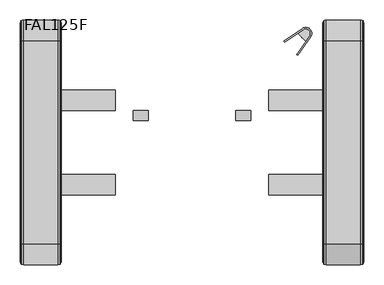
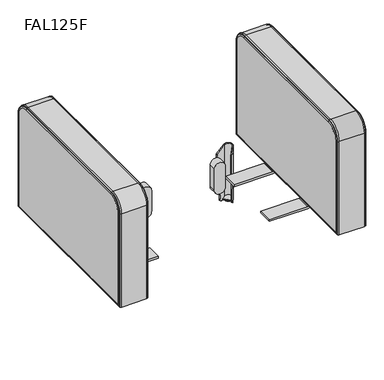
"""IFC4 building model written with IfcOpenShell, lengths in millimetres: furniture geometry, Stance_HC-Flora-Seat_Straight : FAL125F."""

from ifc_helpers import new_model, si_unit, point, frame, frame_2d, origin, origin_with_axes, place, context, project, spatial, polyline, circle_curve, ellipse_curve, trimmed, segment, composite_curve, outline, extrude, source, transform, mapped, element, save
from ifc_brep_helpers import plane_surface, cylinder_surface, revolved_surface, advanced_brep


def fal125f_752cd9b0(model_context):
    return source(origin(), model_context, "Body", "SolidModel", [
        extrude(outline(composite_curve([segment(polyline([(319.1128982, 647.699997), (204.8129042, 647.699997)]), True, "CONTINUOUS"), segment(trimmed(circle_curve(frame_2d((204.8129042, 641.349997)), 6.35), [point((204.8129042, 647.699997))], [point((198.4629042, 641.349997))], True, "CARTESIAN"), True, "CONTINUOUS"), segment(polyline([(198.4629042, 641.349997), (198.4629042, 508.000003), (192.1128921, 508.000003), (192.1128921, 641.349997)]), True, "CONTINUOUS"), segment(trimmed(circle_curve(frame_2d((204.8129042, 641.349997)), 12.7000121), [point((192.1128921, 641.349997))], [point((204.8129042, 654.0500091))], False, "CARTESIAN"), True, "CONTINUOUS"), segment(polyline([(204.8129042, 654.0500091), (319.1128982, 654.0500091), (319.1128982, 647.699997)]), True, "CONTINUOUS")], self_intersect=False)), frame((0.0, -223.8501991, 0.0), z_axis=(0.0, 1.0, 0.0), x_axis=(0.0, 0.0, 1.0)), (0.0, 0.0, 1.0), 50.7999879),
        extrude(outline(composite_curve([segment(polyline([(319.1128982, 647.699997), (204.8129042, 647.699997)]), True, "CONTINUOUS"), segment(trimmed(circle_curve(frame_2d((204.8129042, 641.349997)), 6.35), [point((204.8129042, 647.699997))], [point((198.4629042, 641.349997))], True, "CARTESIAN"), True, "CONTINUOUS"), segment(polyline([(198.4629042, 641.349997), (198.4629042, 508.000003), (192.1128921, 508.000003), (192.1128921, 641.349997)]), True, "CONTINUOUS"), segment(trimmed(circle_curve(frame_2d((204.8129042, 641.349997)), 12.7000121), [point((192.1128921, 641.349997))], [point((204.8129042, 654.0500091))], False, "CARTESIAN"), True, "CONTINUOUS"), segment(polyline([(204.8129042, 654.0500091), (319.1128982, 654.0500091), (319.1128982, 647.699997)]), True, "CONTINUOUS")], self_intersect=False)), frame((0.0, -433.3239864, 0.0), z_axis=(0.0, 1.0, 0.0), x_axis=(0.0, 0.0, 1.0)), (0.0, 0.0, 1.0), 50.7999879),
        advanced_brep(
        [(641.3499485, -555.6250121, 580.256636), (641.3499485, -50.8, 580.256636), (641.3499485, -8.73125, 538.187886), (641.3499485, -8.73125, 207.1941542), (641.3499485, -597.6937621, 207.1941542), (641.3499485, -597.6937621, 538.187886), (742.949997, -597.6937621, 538.187886), (742.949997, -597.6937621, 207.1941542), (742.949997, -8.73125, 207.1941542), (742.949997, -8.73125, 538.187886), (742.949997, -50.8, 580.256636), (742.949997, -555.6250121, 580.256636), (649.834142, -606.4250121, 538.187886), (734.4658035, -606.4250121, 538.187886), (734.4658035, -555.6250121, 588.987886), (649.834142, -555.6250121, 588.987886), (649.834142, -606.4250121, 198.4629042), (734.4658035, -606.4250121, 198.4629042), (649.834142, 0.0, 198.4629042), (734.4658035, 0.0, 198.4629042), (649.834142, 0.0, 538.187886), (734.4658035, 0.0, 538.187886), (649.834142, -50.8, 588.987886), (734.4658035, -50.8, 588.987886), (740.3065441, -603.3867316, 538.187886), (740.3065441, -555.6250121, 585.9496056), (740.3689212, -555.6250121, 587.8832953), (740.3689212, -605.3204213, 538.187886), (740.3065441, -603.3867316, 201.5011847), (740.3689212, -605.3204213, 199.567495), (740.3065441, -3.0382805, 201.5011847), (740.3689212, -1.1045908, 199.567495), (740.3065441, -3.0382805, 538.187886), (740.3689212, -1.1045908, 538.187886), (740.3065441, -50.8, 585.9496056), (740.3689212, -50.8, 587.8832953), (643.9310243, -555.6250121, 587.8832953), (643.9310243, -605.3204213, 538.187886), (643.9934014, -555.6250121, 585.9496056), (643.9934014, -603.3867316, 538.187886), (643.9310243, -605.3204213, 199.567495), (643.9934014, -603.3867316, 201.5011847), (643.9310243, -1.1045908, 199.567495), (643.9934014, -3.0382805, 201.5011847), (643.9310243, -1.1045908, 538.187886), (643.9934014, -3.0382805, 538.187886), (643.9310243, -50.8, 587.8832953), (643.9934014, -50.8, 585.9496056)],
        [
            (0, 1),
            (1, 2, circle_curve(frame((641.3499485, -50.8, 538.187886), z_axis=(-1.0, 0.0, 0.0), x_axis=(0.0, 1.0, 0.0)), 42.06875)),
            (2, 3),
            (3, 4),
            (4, 5),
            (5, 0, circle_curve(frame((641.3499485, -555.6250121, 538.187886), z_axis=(-1.0, 0.0, 0.0), x_axis=(0.0, 0.0, 1.0)), 42.06875)),
            (6, 7),
            (7, 8),
            (8, 9),
            (9, 10, circle_curve(frame((742.949997, -50.8, 538.187886), z_axis=(1.0, 0.0, 0.0), x_axis=(0.0, 1.0, 0.0)), 42.06875)),
            (10, 11),
            (11, 6, circle_curve(frame((742.949997, -555.6250121, 538.187886), z_axis=(1.0, 0.0, 0.0), x_axis=(0.0, 0.0, 1.0)), 42.06875)),
            (12, 13),
            (13, 14, circle_curve(frame((734.4658035, -555.6250121, 538.187886), z_axis=(-1.0, 0.0, 0.0), x_axis=(0.0, 0.0, 1.0)), 50.8)),
            (14, 15),
            (15, 12, circle_curve(frame((649.834142, -555.6250121, 538.187886), z_axis=(1.0, 0.0, 0.0), x_axis=(0.0, 0.0, 1.0)), 50.8)),
            (12, 16),
            (16, 17),
            (17, 13),
            (16, 18),
            (18, 19),
            (19, 17),
            (18, 20),
            (20, 21),
            (21, 19),
            (20, 22, circle_curve(frame((649.834142, -50.8, 538.187886), z_axis=(1.0, 0.0, 0.0), x_axis=(0.0, 1.0, 0.0)), 50.8)),
            (22, 23),
            (23, 21, circle_curve(frame((734.4658035, -50.8, 538.187886), z_axis=(-1.0, 0.0, 0.0), x_axis=(0.0, 1.0, 0.0)), 50.8)),
            (14, 23),
            (22, 15),
            (24, 6, circle_curve(frame((735.4980492, -597.6937621, 538.187886), z_axis=(0.0, 0.0, 1.0), x_axis=(0.0, 1.0, 0.0)), 7.4519478)),
            (11, 25, circle_curve(frame((735.4980492, -555.6250121, 580.256636), z_axis=(0.0, -1.0, 0.0), x_axis=(0.0, 0.0, -1.0)), 7.4519478)),
            (25, 24, circle_curve(frame((740.3065441, -555.6250121, 538.187886), z_axis=(1.0, 0.0, 0.0), x_axis=(0.0, 0.0, 1.0)), 47.7617195)),
            (25, 26, circle_curve(frame((739.9982081, -555.6250121, 586.9274028), z_axis=(0.0, -1.0, 0.0), x_axis=(0.0, 0.0, -1.0)), 1.0252602)),
            (26, 27, circle_curve(frame((740.3689212, -555.6250121, 538.187886), z_axis=(1.0, 0.0, 0.0), x_axis=(0.0, 0.0, 1.0)), 49.6954092)),
            (27, 24, circle_curve(frame((739.9982081, -604.3645289, 538.187886), z_axis=(0.0, 0.0, 1.0), x_axis=(0.0, 1.0, 0.0)), 1.0252602)),
            (13, 27, circle_curve(frame((734.4658035, -590.099093, 538.187886), z_axis=(0.0, 0.0, 1.0), x_axis=(0.0, 1.0, 0.0)), 16.3259191)),
            (26, 14, circle_curve(frame((734.4658035, -555.6250121, 572.661967), z_axis=(0.0, -1.0, 0.0), x_axis=(0.0, 0.0, -1.0)), 16.3259191)),
            (24, 28),
            (28, 7, ellipse_curve(frame((735.4980492, -597.6937621, 207.1941542), z_axis=(0.0, -0.7071067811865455, 0.7071067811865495), x_axis=(0.0, 0.7071067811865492, 0.7071067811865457)), 10.5386456, 7.4519478)),
            (27, 29),
            (29, 28, ellipse_curve(frame((739.9982081, -604.3645289, 200.5233874), z_axis=(0.0, -0.7071067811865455, 0.7071067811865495), x_axis=(0.0, 0.7071067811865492, 0.7071067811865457)), 1.4499369, 1.0252602)),
            (17, 29, ellipse_curve(frame((734.4658035, -590.099093, 214.7888233), z_axis=(0.0, -0.7071067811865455, 0.7071067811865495), x_axis=(0.0, 0.7071067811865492, 0.7071067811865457)), 23.0883362, 16.3259191)),
            (28, 30),
            (30, 8, ellipse_curve(frame((735.4980492, -8.73125, 207.1941542), z_axis=(0.0, -0.7071067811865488, -0.7071067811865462), x_axis=(0.0, -0.7071067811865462, 0.7071067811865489)), 10.5386456, 7.4519478)),
            (29, 31),
            (31, 30, ellipse_curve(frame((739.9982081, -2.0604832, 200.5233874), z_axis=(0.0, -0.7071067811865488, -0.7071067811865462), x_axis=(0.0, -0.7071067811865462, 0.7071067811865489)), 1.4499369, 1.0252602)),
            (19, 31, ellipse_curve(frame((734.4658035, -16.3259191, 214.7888233), z_axis=(0.0, -0.7071067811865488, -0.7071067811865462), x_axis=(0.0, -0.7071067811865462, 0.7071067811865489)), 23.0883362, 16.3259191)),
            (30, 32),
            (32, 9, circle_curve(frame((735.4980492, -8.73125, 538.187886), z_axis=(0.0, 0.0, -1.0), x_axis=(0.0, -1.0, 0.0)), 7.4519478)),
            (31, 33),
            (33, 32, circle_curve(frame((739.9982081, -2.0604832, 538.187886), z_axis=(0.0, 0.0, -1.0), x_axis=(0.0, -1.0, 0.0)), 1.0252602)),
            (21, 33, circle_curve(frame((734.4658035, -16.3259191, 538.187886), z_axis=(0.0, 0.0, -1.0), x_axis=(0.0, -1.0, 0.0)), 16.3259191)),
            (32, 34, circle_curve(frame((740.3065441, -50.8, 538.187886), z_axis=(1.0, 0.0, 0.0), x_axis=(0.0, 1.0, 0.0)), 47.7617195)),
            (34, 10, circle_curve(frame((735.4980492, -50.8, 580.256636), z_axis=(0.0, 1.0, 0.0), x_axis=(0.0, 0.0, -1.0)), 7.4519478)),
            (33, 35, circle_curve(frame((740.3689212, -50.8, 538.187886), z_axis=(1.0, 0.0, 0.0), x_axis=(0.0, 1.0, 0.0)), 49.6954092)),
            (35, 34, circle_curve(frame((739.9982081, -50.8, 586.9274028), z_axis=(0.0, 1.0, 0.0), x_axis=(0.0, 0.0, -1.0)), 1.0252602)),
            (23, 35, circle_curve(frame((734.4658035, -50.8, 572.661967), z_axis=(0.0, 1.0, 0.0), x_axis=(0.0, 0.0, -1.0)), 16.3259191)),
            (34, 25),
            (35, 26),
            (15, 36, circle_curve(frame((649.834142, -555.6250121, 572.661967), z_axis=(0.0, -1.0, 0.0), x_axis=(0.0, 0.0, -1.0)), 16.3259191)),
            (36, 37, circle_curve(frame((643.9310243, -555.6250121, 538.187886), z_axis=(1.0, 0.0, 0.0), x_axis=(0.0, 0.0, 1.0)), 49.6954092)),
            (37, 12, circle_curve(frame((649.834142, -590.099093, 538.187886), z_axis=(0.0, 0.0, 1.0), x_axis=(0.0, 1.0, 0.0)), 16.3259191)),
            (36, 38, circle_curve(frame((644.3017374, -555.6250121, 586.9274028), z_axis=(0.0, -1.0, 0.0), x_axis=(0.0, 0.0, -1.0)), 1.0252602)),
            (38, 39, circle_curve(frame((643.9934014, -555.6250121, 538.187886), z_axis=(1.0, 0.0, 0.0), x_axis=(0.0, 0.0, 1.0)), 47.7617195)),
            (39, 37, circle_curve(frame((644.3017374, -604.3645289, 538.187886), z_axis=(0.0, 0.0, 1.0), x_axis=(0.0, 1.0, 0.0)), 1.0252602)),
            (38, 0, circle_curve(frame((648.8018963, -555.6250121, 580.256636), z_axis=(0.0, -1.0, 0.0), x_axis=(0.0, 0.0, -1.0)), 7.4519478)),
            (5, 39, circle_curve(frame((648.8018963, -597.6937621, 538.187886), z_axis=(0.0, 0.0, 1.0), x_axis=(0.0, 1.0, 0.0)), 7.4519478)),
            (37, 40),
            (40, 16, ellipse_curve(frame((649.834142, -590.099093, 214.7888233), z_axis=(0.0, -0.7071067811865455, 0.7071067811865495), x_axis=(0.0, 0.7071067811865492, 0.7071067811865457)), 23.0883362, 16.3259191)),
            (39, 41),
            (41, 40, ellipse_curve(frame((644.3017374, -604.3645289, 200.5233874), z_axis=(0.0, -0.7071067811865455, 0.7071067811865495), x_axis=(0.0, 0.7071067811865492, 0.7071067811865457)), 1.4499369, 1.0252602)),
            (4, 41, ellipse_curve(frame((648.8018963, -597.6937621, 207.1941542), z_axis=(0.0, -0.7071067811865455, 0.7071067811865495), x_axis=(0.0, 0.7071067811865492, 0.7071067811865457)), 10.5386456, 7.4519478)),
            (40, 42),
            (42, 18, ellipse_curve(frame((649.834142, -16.3259191, 214.7888233), z_axis=(0.0, -0.7071067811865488, -0.7071067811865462), x_axis=(0.0, -0.7071067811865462, 0.7071067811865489)), 23.0883362, 16.3259191)),
            (41, 43),
            (43, 42, ellipse_curve(frame((644.3017374, -2.0604832, 200.5233874), z_axis=(0.0, -0.7071067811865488, -0.7071067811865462), x_axis=(0.0, -0.7071067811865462, 0.7071067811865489)), 1.4499369, 1.0252602)),
            (3, 43, ellipse_curve(frame((648.8018963, -8.73125, 207.1941542), z_axis=(0.0, -0.7071067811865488, -0.7071067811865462), x_axis=(0.0, -0.7071067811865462, 0.7071067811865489)), 10.5386456, 7.4519478)),
            (42, 44),
            (44, 20, circle_curve(frame((649.834142, -16.3259191, 538.187886), z_axis=(0.0, 0.0, -1.0), x_axis=(0.0, -1.0, 0.0)), 16.3259191)),
            (43, 45),
            (45, 44, circle_curve(frame((644.3017374, -2.0604832, 538.187886), z_axis=(0.0, 0.0, -1.0), x_axis=(0.0, -1.0, 0.0)), 1.0252602)),
            (2, 45, circle_curve(frame((648.8018963, -8.73125, 538.187886), z_axis=(0.0, 0.0, -1.0), x_axis=(0.0, -1.0, 0.0)), 7.4519478)),
            (44, 46, circle_curve(frame((643.9310243, -50.8, 538.187886), z_axis=(1.0, 0.0, 0.0), x_axis=(0.0, 1.0, 0.0)), 49.6954092)),
            (46, 22, circle_curve(frame((649.834142, -50.8, 572.661967), z_axis=(0.0, 1.0, 0.0), x_axis=(0.0, 0.0, -1.0)), 16.3259191)),
            (45, 47, circle_curve(frame((643.9934014, -50.8, 538.187886), z_axis=(1.0, 0.0, 0.0), x_axis=(0.0, 1.0, 0.0)), 47.7617195)),
            (47, 46, circle_curve(frame((644.3017374, -50.8, 586.9274028), z_axis=(0.0, 1.0, 0.0), x_axis=(0.0, 0.0, -1.0)), 1.0252602)),
            (1, 47, circle_curve(frame((648.8018963, -50.8, 580.256636), z_axis=(0.0, 1.0, 0.0), x_axis=(0.0, 0.0, -1.0)), 7.4519478)),
            (46, 36),
            (47, 38),
        ],
        [
            plane_surface(frame((641.3499485, -555.6250121, 580.256636), z_axis=(-1.0, 0.0, 0.0), x_axis=(0.0, -1.0, 0.0))),
            plane_surface(frame((742.949997, -555.6250121, 580.256636), z_axis=(1.0, 0.0, 0.0), x_axis=(0.0, 1.0, 0.0))),
            cylinder_surface(frame((635.0, -555.6250121, 538.187886), z_axis=(-1.0, 0.0, 0.0), x_axis=(0.0, 0.0, 1.0)), 50.8),
            plane_surface(frame((734.4658035, -606.4250121, 538.187886), z_axis=(0.0, -1.0, 0.0), x_axis=(0.0, 0.0, -1.0))),
            plane_surface(frame((734.4658035, -606.4250121, 198.4629042), z_axis=(0.0, 0.0, -1.0), x_axis=(0.0, 1.0, 0.0))),
            plane_surface(frame((734.4658035, 0.0, 198.4629042), z_axis=(0.0, 1.0, 0.0), x_axis=(0.0, 0.0, 1.0))),
            cylinder_surface(frame((635.0, -50.8, 538.187886), z_axis=(-1.0, 0.0, 0.0), x_axis=(0.0, 1.0, 0.0)), 50.8),
            plane_surface(frame((734.4658035, -50.8, 588.987886), z_axis=(0.0, 0.0, 1.0), x_axis=(0.0, -1.0, 0.0))),
            revolved_surface(trimmed(ellipse_curve(frame((735.4980492, -555.6250121, 580.256636), z_axis=(0.0, -1.0, 0.0), x_axis=(0.0, 0.0, -1.0)), 7.4519478, 7.4519478), [point((742.949997, -555.6250121, 580.256636))], [point((740.3065441, -555.6250121, 585.9496056))], True, "CARTESIAN"), (635.0, -555.6250121, 538.187886), (-1.0, 0.0, 0.0)),
            revolved_surface(trimmed(ellipse_curve(frame((739.9982081, -555.6250121, 586.9274028), z_axis=(0.0, -1.0, 0.0), x_axis=(0.0, 0.0, -1.0)), 1.0252602, 1.0252602), [point((740.3065441, -555.6250121, 585.9496056))], [point((740.3689212, -555.6250121, 587.8832953))], True, "CARTESIAN"), (635.0, -555.6250121, 538.187886), (-1.0, 0.0, 0.0)),
            revolved_surface(trimmed(ellipse_curve(frame((734.4658035, -555.6250121, 572.661967), z_axis=(0.0, -1.0, 0.0), x_axis=(0.0, 0.0, -1.0)), 16.3259191, 16.3259191), [point((740.3689212, -555.6250121, 587.8832953))], [point((734.4658035, -555.6250121, 588.987886))], True, "CARTESIAN"), (635.0, -555.6250121, 538.187886), (-1.0, 0.0, 0.0)),
            cylinder_surface(frame((735.4980492, -597.6937621, 538.187886), z_axis=(0.0, 0.0, 1.0), x_axis=(0.0, 1.0, 0.0)), 7.4519478),
            cylinder_surface(frame((739.9982081, -604.3645289, 538.187886), z_axis=(0.0, 0.0, 1.0), x_axis=(0.0, 1.0, 0.0)), 1.0252602),
            cylinder_surface(frame((734.4658035, -590.099093, 538.187886), z_axis=(0.0, 0.0, 1.0), x_axis=(0.0, 1.0, 0.0)), 16.3259191),
            cylinder_surface(frame((735.4980492, -606.4250121, 207.1941542), z_axis=(0.0, -1.0, 0.0), x_axis=(0.0, 0.0, 1.0)), 7.4519478),
            cylinder_surface(frame((739.9982081, -606.4250121, 200.5233874), z_axis=(0.0, -1.0, 0.0), x_axis=(0.0, 0.0, 1.0)), 1.0252602),
            cylinder_surface(frame((734.4658035, -606.4250121, 214.7888233), z_axis=(0.0, -1.0, 0.0), x_axis=(0.0, 0.0, 1.0)), 16.3259191),
            cylinder_surface(frame((735.4980492, -8.73125, 198.4629042), z_axis=(0.0, 0.0, -1.0), x_axis=(0.0, -1.0, 0.0)), 7.4519478),
            cylinder_surface(frame((739.9982081, -2.0604832, 198.4629042), z_axis=(0.0, 0.0, -1.0), x_axis=(0.0, -1.0, 0.0)), 1.0252602),
            cylinder_surface(frame((734.4658035, -16.3259191, 198.4629042), z_axis=(0.0, 0.0, -1.0), x_axis=(0.0, -1.0, 0.0)), 16.3259191),
            revolved_surface(trimmed(ellipse_curve(frame((735.4980492, -8.73125, 538.187886), z_axis=(0.0, 0.0, 1.0), x_axis=(0.0, -1.0, 0.0)), 7.4519478, 7.4519478), [point((742.949997, -8.73125, 538.187886))], [point((740.3065441, -3.0382805, 538.187886))], True, "CARTESIAN"), (635.0, -50.8, 538.187886), (-1.0, 0.0, 0.0)),
            revolved_surface(trimmed(ellipse_curve(frame((739.9982081, -2.0604832, 538.187886), z_axis=(0.0, 0.0, 1.0), x_axis=(0.0, -1.0, 0.0)), 1.0252602, 1.0252602), [point((740.3065441, -3.0382805, 538.187886))], [point((740.3689212, -1.1045908, 538.187886))], True, "CARTESIAN"), (635.0, -50.8, 538.187886), (-1.0, 0.0, 0.0)),
            revolved_surface(trimmed(ellipse_curve(frame((734.4658035, -16.3259191, 538.187886), z_axis=(0.0, 0.0, 1.0), x_axis=(0.0, -1.0, 0.0)), 16.3259191, 16.3259191), [point((740.3689212, -1.1045908, 538.187886))], [point((734.4658035, 0.0, 538.187886))], True, "CARTESIAN"), (635.0, -50.8, 538.187886), (-1.0, 0.0, 0.0)),
            cylinder_surface(frame((735.4980492, -50.8, 580.256636), z_axis=(0.0, 1.0, 0.0), x_axis=(0.0, 0.0, -1.0)), 7.4519478),
            cylinder_surface(frame((739.9982081, -50.8, 586.9274028), z_axis=(0.0, 1.0, 0.0), x_axis=(0.0, 0.0, -1.0)), 1.0252602),
            cylinder_surface(frame((734.4658035, -50.8, 572.661967), z_axis=(0.0, 1.0, 0.0), x_axis=(0.0, 0.0, -1.0)), 16.3259191),
            revolved_surface(trimmed(ellipse_curve(frame((649.834142, -555.6250121, 572.661967), z_axis=(0.0, -1.0, 0.0), x_axis=(0.0, 0.0, -1.0)), 16.3259191, 16.3259191), [point((649.834142, -555.6250121, 588.987886))], [point((643.9310243, -555.6250121, 587.8832953))], True, "CARTESIAN"), (635.0, -555.6250121, 538.187886), (-1.0, 0.0, 0.0)),
            revolved_surface(trimmed(ellipse_curve(frame((644.3017374, -555.6250121, 586.9274028), z_axis=(0.0, -1.0, 0.0), x_axis=(0.0, 0.0, -1.0)), 1.0252602, 1.0252602), [point((643.9310243, -555.6250121, 587.8832953))], [point((643.9934014, -555.6250121, 585.9496056))], True, "CARTESIAN"), (635.0, -555.6250121, 538.187886), (-1.0, 0.0, 0.0)),
            revolved_surface(trimmed(ellipse_curve(frame((648.8018963, -555.6250121, 580.256636), z_axis=(0.0, -1.0, 0.0), x_axis=(0.0, 0.0, -1.0)), 7.4519478, 7.4519478), [point((643.9934014, -555.6250121, 585.9496056))], [point((641.3499485, -555.6250121, 580.256636))], True, "CARTESIAN"), (635.0, -555.6250121, 538.187886), (-1.0, 0.0, 0.0)),
            cylinder_surface(frame((649.834142, -590.099093, 538.187886), z_axis=(0.0, 0.0, 1.0), x_axis=(0.0, 1.0, 0.0)), 16.3259191),
            cylinder_surface(frame((644.3017374, -604.3645289, 538.187886), z_axis=(0.0, 0.0, 1.0), x_axis=(0.0, 1.0, 0.0)), 1.0252602),
            cylinder_surface(frame((648.8018963, -597.6937621, 538.187886), z_axis=(0.0, 0.0, 1.0), x_axis=(0.0, 1.0, 0.0)), 7.4519478),
            cylinder_surface(frame((649.834142, -606.4250121, 214.7888233), z_axis=(0.0, -1.0, 0.0), x_axis=(0.0, 0.0, 1.0)), 16.3259191),
            cylinder_surface(frame((644.3017374, -606.4250121, 200.5233874), z_axis=(0.0, -1.0, 0.0), x_axis=(0.0, 0.0, 1.0)), 1.0252602),
            cylinder_surface(frame((648.8018963, -606.4250121, 207.1941542), z_axis=(0.0, -1.0, 0.0), x_axis=(0.0, 0.0, 1.0)), 7.4519478),
            cylinder_surface(frame((649.834142, -16.3259191, 198.4629042), z_axis=(0.0, 0.0, -1.0), x_axis=(0.0, -1.0, 0.0)), 16.3259191),
            cylinder_surface(frame((644.3017374, -2.0604832, 198.4629042), z_axis=(0.0, 0.0, -1.0), x_axis=(0.0, -1.0, 0.0)), 1.0252602),
            cylinder_surface(frame((648.8018963, -8.73125, 198.4629042), z_axis=(0.0, 0.0, -1.0), x_axis=(0.0, -1.0, 0.0)), 7.4519478),
            revolved_surface(trimmed(ellipse_curve(frame((649.834142, -16.3259191, 538.187886), z_axis=(0.0, 0.0, 1.0), x_axis=(0.0, -1.0, 0.0)), 16.3259191, 16.3259191), [point((649.834142, 0.0, 538.187886))], [point((643.9310243, -1.1045908, 538.187886))], True, "CARTESIAN"), (635.0, -50.8, 538.187886), (-1.0, 0.0, 0.0)),
            revolved_surface(trimmed(ellipse_curve(frame((644.3017374, -2.0604832, 538.187886), z_axis=(0.0, 0.0, 1.0), x_axis=(0.0, -1.0, 0.0)), 1.0252602, 1.0252602), [point((643.9310243, -1.1045908, 538.187886))], [point((643.9934014, -3.0382805, 538.187886))], True, "CARTESIAN"), (635.0, -50.8, 538.187886), (-1.0, 0.0, 0.0)),
            revolved_surface(trimmed(ellipse_curve(frame((648.8018963, -8.73125, 538.187886), z_axis=(0.0, 0.0, 1.0), x_axis=(0.0, -1.0, 0.0)), 7.4519478, 7.4519478), [point((643.9934014, -3.0382805, 538.187886))], [point((641.3499485, -8.73125, 538.187886))], True, "CARTESIAN"), (635.0, -50.8, 538.187886), (-1.0, 0.0, 0.0)),
            cylinder_surface(frame((649.834142, -50.8, 572.661967), z_axis=(0.0, 1.0, 0.0), x_axis=(0.0, 0.0, -1.0)), 16.3259191),
            cylinder_surface(frame((644.3017374, -50.8, 586.9274028), z_axis=(0.0, 1.0, 0.0), x_axis=(0.0, 0.0, -1.0)), 1.0252602),
            cylinder_surface(frame((648.8018963, -50.8, 580.256636), z_axis=(0.0, 1.0, 0.0), x_axis=(0.0, 0.0, -1.0)), 7.4519478),
        ],
        [
            (0, [[1, 2, 3, 4, 5, 6]]),
            (1, [[7, 8, 9, 10, 11, 12]]),
            (2, [[13, 14, 15, 16]]),
            (3, [[17, 18, 19, -13]]),
            (4, [[20, 21, 22, -18]]),
            (5, [[23, 24, 25, -21]]),
            (6, [[26, 27, 28, -24]]),
            (7, [[29, -27, 30, -15]]),
            (8, [[31, -12, 32, 33]]),
            (9, [[34, 35, 36, -33]]),
            (10, [[37, -35, 38, -14]]),
            (11, [[39, 40, -7, -31]]),
            (12, [[41, 42, -39, -36]]),
            (13, [[43, -41, -37, -19]]),
            (14, [[44, 45, -8, -40]]),
            (15, [[46, 47, -44, -42]]),
            (16, [[48, -46, -43, -22]]),
            (17, [[49, 50, -9, -45]]),
            (18, [[51, 52, -49, -47]]),
            (19, [[53, -51, -48, -25]]),
            (20, [[54, 55, -10, -50]]),
            (21, [[56, 57, -54, -52]]),
            (22, [[58, -56, -53, -28]]),
            (23, [[-11, -55, 59, -32]]),
            (24, [[-59, -57, 60, -34]]),
            (25, [[-38, -60, -58, -29]]),
            (26, [[61, 62, 63, -16]]),
            (27, [[64, 65, 66, -62]]),
            (28, [[67, -6, 68, -65]]),
            (29, [[-63, 69, 70, -17]]),
            (30, [[71, 72, -69, -66]]),
            (31, [[-5, 73, -71, -68]]),
            (32, [[-70, 74, 75, -20]]),
            (33, [[76, 77, -74, -72]]),
            (34, [[-4, 78, -76, -73]]),
            (35, [[-75, 79, 80, -23]]),
            (36, [[81, 82, -79, -77]]),
            (37, [[-3, 83, -81, -78]]),
            (38, [[-80, 84, 85, -26]]),
            (39, [[86, 87, -84, -82]]),
            (40, [[-2, 88, -86, -83]]),
            (41, [[-85, 89, -61, -30]]),
            (42, [[-89, -87, 90, -64]]),
            (43, [[-90, -88, -1, -67]]),
        ],
    ),
        extrude(outline(composite_curve([segment(polyline([(319.1128982, -12.699997), (319.1128982, -19.0500091), (204.8129042, -19.0500091)]), True, "CONTINUOUS"), segment(trimmed(circle_curve(frame_2d((204.8129042, -6.349997)), 12.7000121), [point((204.8129042, -19.0500091))], [point((192.1128921, -6.349997))], False, "CARTESIAN"), True, "CONTINUOUS"), segment(polyline([(192.1128921, -6.349997), (192.1128921, 126.999997), (198.4629042, 126.999997), (198.4629042, -6.349997)]), True, "CONTINUOUS"), segment(trimmed(circle_curve(frame_2d((204.8129042, -6.349997)), 6.35), [point((198.4629042, -6.349997))], [point((204.8129042, -12.699997))], True, "CARTESIAN"), True, "CONTINUOUS"), segment(polyline([(204.8129042, -12.699997), (319.1128982, -12.699997)]), True, "CONTINUOUS")], self_intersect=False)), frame((0.0, -223.8501991, 0.0), z_axis=(0.0, 1.0, 0.0), x_axis=(0.0, 0.0, 1.0)), (0.0, 0.0, 1.0), 50.7999879),
        extrude(outline(composite_curve([segment(polyline([(319.1128982, -12.699997), (319.1128982, -19.0500091), (204.8129042, -19.0500091)]), True, "CONTINUOUS"), segment(trimmed(circle_curve(frame_2d((204.8129042, -6.349997)), 12.7000121), [point((204.8129042, -19.0500091))], [point((192.1128921, -6.349997))], False, "CARTESIAN"), True, "CONTINUOUS"), segment(polyline([(192.1128921, -6.349997), (192.1128921, 126.999997), (198.4629042, 126.999997), (198.4629042, -6.349997)]), True, "CONTINUOUS"), segment(trimmed(circle_curve(frame_2d((204.8129042, -6.349997)), 6.35), [point((198.4629042, -6.349997))], [point((204.8129042, -12.699997))], True, "CARTESIAN"), True, "CONTINUOUS"), segment(polyline([(204.8129042, -12.699997), (319.1128982, -12.699997)]), True, "CONTINUOUS")], self_intersect=False)), frame((0.0, -433.3239864, 0.0), z_axis=(0.0, 1.0, 0.0), x_axis=(0.0, 0.0, 1.0)), (0.0, 0.0, 1.0), 50.7999879),
        advanced_brep(
        [(-6.3499485, -555.6250121, 580.256636), (-6.3499485, -597.6937621, 538.187886), (-6.3499485, -597.6937621, 207.1941542), (-6.3499485, -8.73125, 207.1941542), (-6.3499485, -8.73125, 538.187886), (-6.3499485, -50.8, 580.256636), (-107.949997, -597.6937621, 538.187886), (-107.949997, -555.6250121, 580.256636), (-107.949997, -50.8, 580.256636), (-107.949997, -8.73125, 538.187886), (-107.949997, -8.73125, 207.1941542), (-107.949997, -597.6937621, 207.1941542), (-14.834142, -606.4250121, 538.187886), (-14.834142, -555.6250121, 588.987886), (-99.4658035, -555.6250121, 588.987886), (-99.4658035, -606.4250121, 538.187886), (-99.4658035, -606.4250121, 198.4629042), (-14.834142, -606.4250121, 198.4629042), (-99.4658035, 0.0, 198.4629042), (-14.834142, 0.0, 198.4629042), (-99.4658035, 0.0, 538.187886), (-14.834142, 0.0, 538.187886), (-99.4658035, -50.8, 588.987886), (-14.834142, -50.8, 588.987886), (-105.3065441, -603.3867316, 538.187886), (-105.3065441, -555.6250121, 585.9496056), (-105.3689212, -605.3204213, 538.187886), (-105.3689212, -555.6250121, 587.8832953), (-105.3065441, -603.3867316, 201.5011847), (-105.3689212, -605.3204213, 199.567495), (-105.3065441, -3.0382805, 201.5011847), (-105.3689212, -1.1045908, 199.567495), (-105.3065441, -3.0382805, 538.187886), (-105.3689212, -1.1045908, 538.187886), (-105.3065441, -50.8, 585.9496056), (-105.3689212, -50.8, 587.8832953), (-8.9310243, -605.3204213, 538.187886), (-8.9310243, -555.6250121, 587.8832953), (-8.9934014, -603.3867316, 538.187886), (-8.9934014, -555.6250121, 585.9496056), (-8.9310243, -605.3204213, 199.567495), (-8.9934014, -603.3867316, 201.5011847), (-8.9310243, -1.1045908, 199.567495), (-8.9934014, -3.0382805, 201.5011847), (-8.9310243, -1.1045908, 538.187886), (-8.9934014, -3.0382805, 538.187886), (-8.9310243, -50.8, 587.8832953), (-8.9934014, -50.8, 585.9496056)],
        [
            (0, 1, circle_curve(frame((-6.3499485, -555.6250121, 538.187886), z_axis=(1.0, 0.0, 0.0), x_axis=(0.0, 0.0, 1.0)), 42.06875)),
            (1, 2),
            (2, 3),
            (3, 4),
            (4, 5, circle_curve(frame((-6.3499485, -50.8, 538.187886), z_axis=(1.0, 0.0, 0.0), x_axis=(0.0, 1.0, 0.0)), 42.06875)),
            (5, 0),
            (6, 7, circle_curve(frame((-107.949997, -555.6250121, 538.187886), z_axis=(-1.0, 0.0, 0.0), x_axis=(0.0, 0.0, 1.0)), 42.06875)),
            (7, 8),
            (8, 9, circle_curve(frame((-107.949997, -50.8, 538.187886), z_axis=(-1.0, 0.0, 0.0), x_axis=(0.0, 1.0, 0.0)), 42.06875)),
            (9, 10),
            (10, 11),
            (11, 6),
            (12, 13, circle_curve(frame((-14.834142, -555.6250121, 538.187886), z_axis=(-1.0, 0.0, 0.0), x_axis=(0.0, 0.0, 1.0)), 50.8)),
            (13, 14),
            (14, 15, circle_curve(frame((-99.4658035, -555.6250121, 538.187886), z_axis=(1.0, 0.0, 0.0), x_axis=(0.0, 0.0, 1.0)), 50.8)),
            (15, 12),
            (15, 16),
            (16, 17),
            (17, 12),
            (16, 18),
            (18, 19),
            (19, 17),
            (18, 20),
            (20, 21),
            (21, 19),
            (20, 22, circle_curve(frame((-99.4658035, -50.8, 538.187886), z_axis=(1.0, 0.0, 0.0), x_axis=(0.0, 1.0, 0.0)), 50.8)),
            (22, 23),
            (23, 21, circle_curve(frame((-14.834142, -50.8, 538.187886), z_axis=(-1.0, 0.0, 0.0), x_axis=(0.0, 1.0, 0.0)), 50.8)),
            (13, 23),
            (22, 14),
            (24, 25, circle_curve(frame((-105.3065441, -555.6250121, 538.187886), z_axis=(-1.0, 0.0, 0.0), x_axis=(0.0, 0.0, 1.0)), 47.7617195)),
            (25, 7, circle_curve(frame((-100.4980492, -555.6250121, 580.256636), z_axis=(0.0, -1.0, 0.0), x_axis=(0.0, 0.0, -1.0)), 7.4519478)),
            (6, 24, circle_curve(frame((-100.4980492, -597.6937621, 538.187886), z_axis=(0.0, 0.0, 1.0), x_axis=(0.0, 1.0, 0.0)), 7.4519478)),
            (24, 26, circle_curve(frame((-104.9982081, -604.3645289, 538.187886), z_axis=(0.0, 0.0, 1.0), x_axis=(0.0, 1.0, 0.0)), 1.0252602)),
            (26, 27, circle_curve(frame((-105.3689212, -555.6250121, 538.187886), z_axis=(-1.0, 0.0, 0.0), x_axis=(0.0, 0.0, 1.0)), 49.6954092)),
            (27, 25, circle_curve(frame((-104.9982081, -555.6250121, 586.9274028), z_axis=(0.0, -1.0, 0.0), x_axis=(0.0, 0.0, -1.0)), 1.0252602)),
            (14, 27, circle_curve(frame((-99.4658035, -555.6250121, 572.661967), z_axis=(0.0, -1.0, 0.0), x_axis=(0.0, 0.0, -1.0)), 16.3259191)),
            (26, 15, circle_curve(frame((-99.4658035, -590.099093, 538.187886), z_axis=(0.0, 0.0, 1.0), x_axis=(0.0, 1.0, 0.0)), 16.3259191)),
            (11, 28, ellipse_curve(frame((-100.4980492, -597.6937621, 207.1941542), z_axis=(0.0, -0.7071067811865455, 0.7071067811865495), x_axis=(0.0, 0.7071067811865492, 0.7071067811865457)), 10.5386456, 7.4519478)),
            (28, 24),
            (28, 29, ellipse_curve(frame((-104.9982081, -604.3645289, 200.5233874), z_axis=(0.0, -0.7071067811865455, 0.7071067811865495), x_axis=(0.0, 0.7071067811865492, 0.7071067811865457)), 1.4499369, 1.0252602)),
            (29, 26),
            (29, 16, ellipse_curve(frame((-99.4658035, -590.099093, 214.7888233), z_axis=(0.0, -0.7071067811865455, 0.7071067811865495), x_axis=(0.0, 0.7071067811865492, 0.7071067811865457)), 23.0883362, 16.3259191)),
            (10, 30, ellipse_curve(frame((-100.4980492, -8.73125, 207.1941542), z_axis=(0.0, -0.7071067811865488, -0.7071067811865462), x_axis=(0.0, -0.7071067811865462, 0.7071067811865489)), 10.5386456, 7.4519478)),
            (30, 28),
            (30, 31, ellipse_curve(frame((-104.9982081, -2.0604832, 200.5233874), z_axis=(0.0, -0.7071067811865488, -0.7071067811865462), x_axis=(0.0, -0.7071067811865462, 0.7071067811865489)), 1.4499369, 1.0252602)),
            (31, 29),
            (31, 18, ellipse_curve(frame((-99.4658035, -16.3259191, 214.7888233), z_axis=(0.0, -0.7071067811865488, -0.7071067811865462), x_axis=(0.0, -0.7071067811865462, 0.7071067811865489)), 23.0883362, 16.3259191)),
            (9, 32, circle_curve(frame((-100.4980492, -8.73125, 538.187886), z_axis=(0.0, 0.0, -1.0), x_axis=(0.0, -1.0, 0.0)), 7.4519478)),
            (32, 30),
            (32, 33, circle_curve(frame((-104.9982081, -2.0604832, 538.187886), z_axis=(0.0, 0.0, -1.0), x_axis=(0.0, -1.0, 0.0)), 1.0252602)),
            (33, 31),
            (33, 20, circle_curve(frame((-99.4658035, -16.3259191, 538.187886), z_axis=(0.0, 0.0, -1.0), x_axis=(0.0, -1.0, 0.0)), 16.3259191)),
            (8, 34, circle_curve(frame((-100.4980492, -50.8, 580.256636), z_axis=(0.0, 1.0, 0.0), x_axis=(0.0, 0.0, -1.0)), 7.4519478)),
            (34, 32, circle_curve(frame((-105.3065441, -50.8, 538.187886), z_axis=(-1.0, 0.0, 0.0), x_axis=(0.0, 1.0, 0.0)), 47.7617195)),
            (34, 35, circle_curve(frame((-104.9982081, -50.8, 586.9274028), z_axis=(0.0, 1.0, 0.0), x_axis=(0.0, 0.0, -1.0)), 1.0252602)),
            (35, 33, circle_curve(frame((-105.3689212, -50.8, 538.187886), z_axis=(-1.0, 0.0, 0.0), x_axis=(0.0, 1.0, 0.0)), 49.6954092)),
            (35, 22, circle_curve(frame((-99.4658035, -50.8, 572.661967), z_axis=(0.0, 1.0, 0.0), x_axis=(0.0, 0.0, -1.0)), 16.3259191)),
            (25, 34),
            (27, 35),
            (12, 36, circle_curve(frame((-14.834142, -590.099093, 538.187886), z_axis=(0.0, 0.0, 1.0), x_axis=(0.0, 1.0, 0.0)), 16.3259191)),
            (36, 37, circle_curve(frame((-8.9310243, -555.6250121, 538.187886), z_axis=(-1.0, 0.0, 0.0), x_axis=(0.0, 0.0, 1.0)), 49.6954092)),
            (37, 13, circle_curve(frame((-14.834142, -555.6250121, 572.661967), z_axis=(0.0, -1.0, 0.0), x_axis=(0.0, 0.0, -1.0)), 16.3259191)),
            (36, 38, circle_curve(frame((-9.3017374, -604.3645289, 538.187886), z_axis=(0.0, 0.0, 1.0), x_axis=(0.0, 1.0, 0.0)), 1.0252602)),
            (38, 39, circle_curve(frame((-8.9934014, -555.6250121, 538.187886), z_axis=(-1.0, 0.0, 0.0), x_axis=(0.0, 0.0, 1.0)), 47.7617195)),
            (39, 37, circle_curve(frame((-9.3017374, -555.6250121, 586.9274028), z_axis=(0.0, -1.0, 0.0), x_axis=(0.0, 0.0, -1.0)), 1.0252602)),
            (38, 1, circle_curve(frame((-13.8018963, -597.6937621, 538.187886), z_axis=(0.0, 0.0, 1.0), x_axis=(0.0, 1.0, 0.0)), 7.4519478)),
            (0, 39, circle_curve(frame((-13.8018963, -555.6250121, 580.256636), z_axis=(0.0, -1.0, 0.0), x_axis=(0.0, 0.0, -1.0)), 7.4519478)),
            (17, 40, ellipse_curve(frame((-14.834142, -590.099093, 214.7888233), z_axis=(0.0, -0.7071067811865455, 0.7071067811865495), x_axis=(0.0, 0.7071067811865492, 0.7071067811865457)), 23.0883362, 16.3259191)),
            (40, 36),
            (40, 41, ellipse_curve(frame((-9.3017374, -604.3645289, 200.5233874), z_axis=(0.0, -0.7071067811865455, 0.7071067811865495), x_axis=(0.0, 0.7071067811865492, 0.7071067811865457)), 1.4499369, 1.0252602)),
            (41, 38),
            (41, 2, ellipse_curve(frame((-13.8018963, -597.6937621, 207.1941542), z_axis=(0.0, -0.7071067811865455, 0.7071067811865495), x_axis=(0.0, 0.7071067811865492, 0.7071067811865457)), 10.5386456, 7.4519478)),
            (19, 42, ellipse_curve(frame((-14.834142, -16.3259191, 214.7888233), z_axis=(0.0, -0.7071067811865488, -0.7071067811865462), x_axis=(0.0, -0.7071067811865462, 0.7071067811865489)), 23.0883362, 16.3259191)),
            (42, 40),
            (42, 43, ellipse_curve(frame((-9.3017374, -2.0604832, 200.5233874), z_axis=(0.0, -0.7071067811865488, -0.7071067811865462), x_axis=(0.0, -0.7071067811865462, 0.7071067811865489)), 1.4499369, 1.0252602)),
            (43, 41),
            (43, 3, ellipse_curve(frame((-13.8018963, -8.73125, 207.1941542), z_axis=(0.0, -0.7071067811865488, -0.7071067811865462), x_axis=(0.0, -0.7071067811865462, 0.7071067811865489)), 10.5386456, 7.4519478)),
            (21, 44, circle_curve(frame((-14.834142, -16.3259191, 538.187886), z_axis=(0.0, 0.0, -1.0), x_axis=(0.0, -1.0, 0.0)), 16.3259191)),
            (44, 42),
            (44, 45, circle_curve(frame((-9.3017374, -2.0604832, 538.187886), z_axis=(0.0, 0.0, -1.0), x_axis=(0.0, -1.0, 0.0)), 1.0252602)),
            (45, 43),
            (45, 4, circle_curve(frame((-13.8018963, -8.73125, 538.187886), z_axis=(0.0, 0.0, -1.0), x_axis=(0.0, -1.0, 0.0)), 7.4519478)),
            (23, 46, circle_curve(frame((-14.834142, -50.8, 572.661967), z_axis=(0.0, 1.0, 0.0), x_axis=(0.0, 0.0, -1.0)), 16.3259191)),
            (46, 44, circle_curve(frame((-8.9310243, -50.8, 538.187886), z_axis=(-1.0, 0.0, 0.0), x_axis=(0.0, 1.0, 0.0)), 49.6954092)),
            (46, 47, circle_curve(frame((-9.3017374, -50.8, 586.9274028), z_axis=(0.0, 1.0, 0.0), x_axis=(0.0, 0.0, -1.0)), 1.0252602)),
            (47, 45, circle_curve(frame((-8.9934014, -50.8, 538.187886), z_axis=(-1.0, 0.0, 0.0), x_axis=(0.0, 1.0, 0.0)), 47.7617195)),
            (47, 5, circle_curve(frame((-13.8018963, -50.8, 580.256636), z_axis=(0.0, 1.0, 0.0), x_axis=(0.0, 0.0, -1.0)), 7.4519478)),
            (37, 46),
            (39, 47),
        ],
        [
            plane_surface(frame((-6.3499485, -555.6250121, 580.256636), z_axis=(1.0, 0.0, 0.0), x_axis=(0.0, -1.0, 0.0))),
            plane_surface(frame((-107.949997, -555.6250121, 580.256636), z_axis=(-1.0, 0.0, 0.0), x_axis=(0.0, 1.0, 0.0))),
            cylinder_surface(frame((0.0, -555.6250121, 538.187886), z_axis=(1.0, 0.0, 0.0), x_axis=(0.0, 0.0, 1.0)), 50.8),
            plane_surface(frame((-99.4658035, -606.4250121, 538.187886), z_axis=(0.0, -1.0, 0.0), x_axis=(0.0, 0.0, -1.0))),
            plane_surface(frame((-99.4658035, -606.4250121, 198.4629042), z_axis=(0.0, 0.0, -1.0), x_axis=(0.0, 1.0, 0.0))),
            plane_surface(frame((-99.4658035, 0.0, 198.4629042), z_axis=(0.0, 1.0, 0.0), x_axis=(0.0, 0.0, 1.0))),
            cylinder_surface(frame((0.0, -50.8, 538.187886), z_axis=(1.0, 0.0, 0.0), x_axis=(0.0, 1.0, 0.0)), 50.8),
            plane_surface(frame((-99.4658035, -50.8, 588.987886), z_axis=(0.0, 0.0, 1.0), x_axis=(0.0, -1.0, 0.0))),
            revolved_surface(trimmed(ellipse_curve(frame((-100.4980492, -555.6250121, 580.256636), z_axis=(0.0, 1.0, 0.0), x_axis=(0.0, 0.0, -1.0)), 7.4519478, 7.4519478), [point((-107.949997, -555.6250121, 580.256636))], [point((-105.3065441, -555.6250121, 585.9496056))], True, "CARTESIAN"), (0.0, -555.6250121, 538.187886), (1.0, 0.0, 0.0)),
            revolved_surface(trimmed(ellipse_curve(frame((-104.9982081, -555.6250121, 586.9274028), z_axis=(0.0, 1.0, 0.0), x_axis=(0.0, 0.0, -1.0)), 1.0252602, 1.0252602), [point((-105.3065441, -555.6250121, 585.9496056))], [point((-105.3689212, -555.6250121, 587.8832953))], True, "CARTESIAN"), (0.0, -555.6250121, 538.187886), (1.0, 0.0, 0.0)),
            revolved_surface(trimmed(ellipse_curve(frame((-99.4658035, -555.6250121, 572.661967), z_axis=(0.0, 1.0, 0.0), x_axis=(0.0, 0.0, -1.0)), 16.3259191, 16.3259191), [point((-105.3689212, -555.6250121, 587.8832953))], [point((-99.4658035, -555.6250121, 588.987886))], True, "CARTESIAN"), (0.0, -555.6250121, 538.187886), (1.0, 0.0, 0.0)),
            cylinder_surface(frame((-100.4980492, -597.6937621, 538.187886), z_axis=(0.0, 0.0, 1.0), x_axis=(0.0, 1.0, 0.0)), 7.4519478),
            cylinder_surface(frame((-104.9982081, -604.3645289, 538.187886), z_axis=(0.0, 0.0, 1.0), x_axis=(0.0, 1.0, 0.0)), 1.0252602),
            cylinder_surface(frame((-99.4658035, -590.099093, 538.187886), z_axis=(0.0, 0.0, 1.0), x_axis=(0.0, 1.0, 0.0)), 16.3259191),
            cylinder_surface(frame((-100.4980492, -606.4250121, 207.1941542), z_axis=(0.0, -1.0, 0.0), x_axis=(0.0, 0.0, 1.0)), 7.4519478),
            cylinder_surface(frame((-104.9982081, -606.4250121, 200.5233874), z_axis=(0.0, -1.0, 0.0), x_axis=(0.0, 0.0, 1.0)), 1.0252602),
            cylinder_surface(frame((-99.4658035, -606.4250121, 214.7888233), z_axis=(0.0, -1.0, 0.0), x_axis=(0.0, 0.0, 1.0)), 16.3259191),
            cylinder_surface(frame((-100.4980492, -8.73125, 198.4629042), z_axis=(0.0, 0.0, -1.0), x_axis=(0.0, -1.0, 0.0)), 7.4519478),
            cylinder_surface(frame((-104.9982081, -2.0604832, 198.4629042), z_axis=(0.0, 0.0, -1.0), x_axis=(0.0, -1.0, 0.0)), 1.0252602),
            cylinder_surface(frame((-99.4658035, -16.3259191, 198.4629042), z_axis=(0.0, 0.0, -1.0), x_axis=(0.0, -1.0, 0.0)), 16.3259191),
            revolved_surface(trimmed(ellipse_curve(frame((-100.4980492, -8.73125, 538.187886), z_axis=(0.0, 0.0, -1.0), x_axis=(0.0, -1.0, 0.0)), 7.4519478, 7.4519478), [point((-107.949997, -8.73125, 538.187886))], [point((-105.3065441, -3.0382805, 538.187886))], True, "CARTESIAN"), (0.0, -50.8, 538.187886), (1.0, 0.0, 0.0)),
            revolved_surface(trimmed(ellipse_curve(frame((-104.9982081, -2.0604832, 538.187886), z_axis=(0.0, 0.0, -1.0), x_axis=(0.0, -1.0, 0.0)), 1.0252602, 1.0252602), [point((-105.3065441, -3.0382805, 538.187886))], [point((-105.3689212, -1.1045908, 538.187886))], True, "CARTESIAN"), (0.0, -50.8, 538.187886), (1.0, 0.0, 0.0)),
            revolved_surface(trimmed(ellipse_curve(frame((-99.4658035, -16.3259191, 538.187886), z_axis=(0.0, 0.0, -1.0), x_axis=(0.0, -1.0, 0.0)), 16.3259191, 16.3259191), [point((-105.3689212, -1.1045908, 538.187886))], [point((-99.4658035, 0.0, 538.187886))], True, "CARTESIAN"), (0.0, -50.8, 538.187886), (1.0, 0.0, 0.0)),
            cylinder_surface(frame((-100.4980492, -50.8, 580.256636), z_axis=(0.0, 1.0, 0.0), x_axis=(0.0, 0.0, -1.0)), 7.4519478),
            cylinder_surface(frame((-104.9982081, -50.8, 586.9274028), z_axis=(0.0, 1.0, 0.0), x_axis=(0.0, 0.0, -1.0)), 1.0252602),
            cylinder_surface(frame((-99.4658035, -50.8, 572.661967), z_axis=(0.0, 1.0, 0.0), x_axis=(0.0, 0.0, -1.0)), 16.3259191),
            revolved_surface(trimmed(ellipse_curve(frame((-14.834142, -555.6250121, 572.661967), z_axis=(0.0, 1.0, 0.0), x_axis=(0.0, 0.0, -1.0)), 16.3259191, 16.3259191), [point((-14.834142, -555.6250121, 588.987886))], [point((-8.9310243, -555.6250121, 587.8832953))], True, "CARTESIAN"), (0.0, -555.6250121, 538.187886), (1.0, 0.0, 0.0)),
            revolved_surface(trimmed(ellipse_curve(frame((-9.3017374, -555.6250121, 586.9274028), z_axis=(0.0, 1.0, 0.0), x_axis=(0.0, 0.0, -1.0)), 1.0252602, 1.0252602), [point((-8.9310243, -555.6250121, 587.8832953))], [point((-8.9934014, -555.6250121, 585.9496056))], True, "CARTESIAN"), (0.0, -555.6250121, 538.187886), (1.0, 0.0, 0.0)),
            revolved_surface(trimmed(ellipse_curve(frame((-13.8018963, -555.6250121, 580.256636), z_axis=(0.0, 1.0, 0.0), x_axis=(0.0, 0.0, -1.0)), 7.4519478, 7.4519478), [point((-8.9934014, -555.6250121, 585.9496056))], [point((-6.3499485, -555.6250121, 580.256636))], True, "CARTESIAN"), (0.0, -555.6250121, 538.187886), (1.0, 0.0, 0.0)),
            cylinder_surface(frame((-14.834142, -590.099093, 538.187886), z_axis=(0.0, 0.0, 1.0), x_axis=(0.0, 1.0, 0.0)), 16.3259191),
            cylinder_surface(frame((-9.3017374, -604.3645289, 538.187886), z_axis=(0.0, 0.0, 1.0), x_axis=(0.0, 1.0, 0.0)), 1.0252602),
            cylinder_surface(frame((-13.8018963, -597.6937621, 538.187886), z_axis=(0.0, 0.0, 1.0), x_axis=(0.0, 1.0, 0.0)), 7.4519478),
            cylinder_surface(frame((-14.834142, -606.4250121, 214.7888233), z_axis=(0.0, -1.0, 0.0), x_axis=(0.0, 0.0, 1.0)), 16.3259191),
            cylinder_surface(frame((-9.3017374, -606.4250121, 200.5233874), z_axis=(0.0, -1.0, 0.0), x_axis=(0.0, 0.0, 1.0)), 1.0252602),
            cylinder_surface(frame((-13.8018963, -606.4250121, 207.1941542), z_axis=(0.0, -1.0, 0.0), x_axis=(0.0, 0.0, 1.0)), 7.4519478),
            cylinder_surface(frame((-14.834142, -16.3259191, 198.4629042), z_axis=(0.0, 0.0, -1.0), x_axis=(0.0, -1.0, 0.0)), 16.3259191),
            cylinder_surface(frame((-9.3017374, -2.0604832, 198.4629042), z_axis=(0.0, 0.0, -1.0), x_axis=(0.0, -1.0, 0.0)), 1.0252602),
            cylinder_surface(frame((-13.8018963, -8.73125, 198.4629042), z_axis=(0.0, 0.0, -1.0), x_axis=(0.0, -1.0, 0.0)), 7.4519478),
            revolved_surface(trimmed(ellipse_curve(frame((-14.834142, -16.3259191, 538.187886), z_axis=(0.0, 0.0, -1.0), x_axis=(0.0, -1.0, 0.0)), 16.3259191, 16.3259191), [point((-14.834142, 0.0, 538.187886))], [point((-8.9310243, -1.1045908, 538.187886))], True, "CARTESIAN"), (0.0, -50.8, 538.187886), (1.0, 0.0, 0.0)),
            revolved_surface(trimmed(ellipse_curve(frame((-9.3017374, -2.0604832, 538.187886), z_axis=(0.0, 0.0, -1.0), x_axis=(0.0, -1.0, 0.0)), 1.0252602, 1.0252602), [point((-8.9310243, -1.1045908, 538.187886))], [point((-8.9934014, -3.0382805, 538.187886))], True, "CARTESIAN"), (0.0, -50.8, 538.187886), (1.0, 0.0, 0.0)),
            revolved_surface(trimmed(ellipse_curve(frame((-13.8018963, -8.73125, 538.187886), z_axis=(0.0, 0.0, -1.0), x_axis=(0.0, -1.0, 0.0)), 7.4519478, 7.4519478), [point((-8.9934014, -3.0382805, 538.187886))], [point((-6.3499485, -8.73125, 538.187886))], True, "CARTESIAN"), (0.0, -50.8, 538.187886), (1.0, 0.0, 0.0)),
            cylinder_surface(frame((-14.834142, -50.8, 572.661967), z_axis=(0.0, 1.0, 0.0), x_axis=(0.0, 0.0, -1.0)), 16.3259191),
            cylinder_surface(frame((-9.3017374, -50.8, 586.9274028), z_axis=(0.0, 1.0, 0.0), x_axis=(0.0, 0.0, -1.0)), 1.0252602),
            cylinder_surface(frame((-13.8018963, -50.8, 580.256636), z_axis=(0.0, 1.0, 0.0), x_axis=(0.0, 0.0, -1.0)), 7.4519478),
        ],
        [
            (0, [[1, 2, 3, 4, 5, 6]]),
            (1, [[7, 8, 9, 10, 11, 12]]),
            (2, [[13, 14, 15, 16]]),
            (3, [[-16, 17, 18, 19]]),
            (4, [[-18, 20, 21, 22]]),
            (5, [[-21, 23, 24, 25]]),
            (6, [[-24, 26, 27, 28]]),
            (7, [[-14, 29, -27, 30]]),
            (8, [[31, 32, -7, 33]]),
            (9, [[-31, 34, 35, 36]]),
            (10, [[-15, 37, -35, 38]]),
            (11, [[-33, -12, 39, 40]]),
            (12, [[-34, -40, 41, 42]]),
            (13, [[-17, -38, -42, 43]]),
            (14, [[-39, -11, 44, 45]]),
            (15, [[-41, -45, 46, 47]]),
            (16, [[-20, -43, -47, 48]]),
            (17, [[-44, -10, 49, 50]]),
            (18, [[-46, -50, 51, 52]]),
            (19, [[-23, -48, -52, 53]]),
            (20, [[-49, -9, 54, 55]]),
            (21, [[-51, -55, 56, 57]]),
            (22, [[-26, -53, -57, 58]]),
            (23, [[-32, 59, -54, -8]]),
            (24, [[-36, 60, -56, -59]]),
            (25, [[-30, -58, -60, -37]]),
            (26, [[-13, 61, 62, 63]]),
            (27, [[-62, 64, 65, 66]]),
            (28, [[-65, 67, -1, 68]]),
            (29, [[-19, 69, 70, -61]]),
            (30, [[-64, -70, 71, 72]]),
            (31, [[-67, -72, 73, -2]]),
            (32, [[-22, 74, 75, -69]]),
            (33, [[-71, -75, 76, 77]]),
            (34, [[-73, -77, 78, -3]]),
            (35, [[-25, 79, 80, -74]]),
            (36, [[-76, -80, 81, 82]]),
            (37, [[-78, -82, 83, -4]]),
            (38, [[-28, 84, 85, -79]]),
            (39, [[-81, -85, 86, 87]]),
            (40, [[-83, -87, 88, -5]]),
            (41, [[-29, -63, 89, -84]]),
            (42, [[-66, 90, -86, -89]]),
            (43, [[-68, -6, -88, -90]]),
        ],
    ),
        extrude(outline(composite_curve([segment(polyline([(298.45, 425.45), (222.25, 425.45)]), True, "CONTINUOUS"), segment(trimmed(circle_curve(frame_2d((222.25, 444.5)), 19.05), [point((222.25, 425.45))], [point((222.25, 463.55))], False, "CARTESIAN"), True, "CONTINUOUS"), segment(polyline([(222.25, 463.55), (298.45, 463.55)]), True, "CONTINUOUS"), segment(trimmed(circle_curve(frame_2d((298.45, 444.5)), 19.05), [point((298.45, 463.55))], [point((298.45, 425.45))], False, "CARTESIAN"), True, "CONTINUOUS")], self_intersect=False)), frame((0.0, -249.250193, 0.0), z_axis=(0.0, 1.0, 0.0), x_axis=(0.0, 0.0, 1.0)), (0.0, 0.0, 1.0), 25.3999939),
        extrude(outline(composite_curve([segment(polyline([(298.45, 171.45), (222.25, 171.45)]), True, "CONTINUOUS"), segment(trimmed(circle_curve(frame_2d((222.25, 190.5)), 19.05), [point((222.25, 171.45))], [point((222.25, 209.55))], False, "CARTESIAN"), True, "CONTINUOUS"), segment(polyline([(222.25, 209.55), (298.45, 209.55)]), True, "CONTINUOUS"), segment(trimmed(circle_curve(frame_2d((298.45, 190.5)), 19.05), [point((298.45, 209.55))], [point((298.45, 171.45))], False, "CARTESIAN"), True, "CONTINUOUS")], self_intersect=False)), frame((0.0, -249.250193, 0.0), z_axis=(0.0, 1.0, 0.0), x_axis=(0.0, 0.0, 1.0)), (0.0, 0.0, 1.0), 25.3999939),
        extrude(outline(composite_curve([segment(polyline([(579.1692791, -32.5186459), (592.4741789, -23.2024186)]), True, "CONTINUOUS"), segment(trimmed(circle_curve(frame_2d((599.1246983, -32.7003078)), 11.5947965), [point((592.4741789, -23.2024186))], [point((608.6225874, -39.3508272))], False, "CARTESIAN"), True, "CONTINUOUS"), segment(polyline([(608.6225874, -39.3508272), (599.3063601, -52.6557269), (579.1692791, -32.5186459)]), True, "CONTINUOUS")], self_intersect=False)), frame((0.0, 0.0, 3.175), z_axis=(0.0, 0.0, 1.0), x_axis=(1.0, 0.0, 0.0)), (0.0, 0.0, 1.0), 3.3792927),
        advanced_brep(
        [(579.3314582, -86.7866368, 193.6877233), (611.2555647, -41.1944649, 193.6877233), (590.6305412, -20.5694413, 193.6877233), (545.0383719, -52.4935459, 193.6877233), (546.8820096, -55.1265233, 193.6877233), (592.4741789, -23.2024186, 193.6877233), (608.6225874, -39.3508272, 193.6877233), (576.6984809, -84.9429991, 193.6877233), (579.3314582, -86.7866368, 189.1419595), (608.6225874, -39.3508272, 3.1876992), (598.5018779, -53.8046422, 3.1876992), (589.3247818, -66.9108427, 17.1280233), (592.4741789, -23.2024186, 3.1876992), (564.9141633, -42.5002243, 17.1280233), (578.0203639, -33.3231282, 3.1876992), (545.0383719, -52.4935459, 189.1419334), (590.6305412, -20.5694413, 3.1876992), (575.7124662, -31.0152305, 3.1876992), (562.6062656, -40.1923266, 17.1280233), (611.2555647, -41.1944649, 3.1876992), (591.6326795, -69.2187405, 17.1280233), (600.8097756, -56.1125399, 3.1876992)],
        [
            (0, 1),
            (1, 2, circle_curve(frame((599.1246983, -32.7003078, 193.6877233), z_axis=(0.0, 0.0, 1.0), x_axis=(-1.0, 0.0, 0.0)), 14.8090724)),
            (2, 3),
            (3, 4),
            (4, 5),
            (5, 6, circle_curve(frame((599.1246983, -32.7003078, 193.6877233), z_axis=(0.0, 0.0, -1.0), x_axis=(-1.0, 0.0, 0.0)), 11.5947965)),
            (6, 7),
            (7, 0),
            (7, 8),
            (8, 0),
            (6, 9),
            (9, 10),
            (10, 11, ellipse_curve(frame((598.5018779, -53.8046422, 19.0626992), z_axis=(-0.8191509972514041, 0.5735779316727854, 0.0), x_axis=(-0.5735779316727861, -0.8191509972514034, 0.0)), 16.1198923, 15.875)),
            (11, 7),
            (5, 12),
            (12, 9, circle_curve(frame((599.1246983, -32.7003078, 3.1876992), z_axis=(0.0, 0.0, -1.0), x_axis=(-1.0, 0.0, 0.0)), 11.5947965)),
            (4, 13),
            (13, 14, ellipse_curve(frame((578.0203639, -33.3231282, 19.0626992), z_axis=(0.5735779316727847, -0.8191509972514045, 0.0), x_axis=(0.8191509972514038, 0.5735779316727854, 0.0)), 16.1198923, 15.875)),
            (14, 12),
            (3, 15),
            (15, 4),
            (2, 16),
            (16, 17),
            (17, 18, ellipse_curve(frame((575.7124662, -31.0152305, 19.0626992), z_axis=(-0.5735779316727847, 0.8191509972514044, 0.0), x_axis=(0.8191509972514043, 0.573577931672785, 0.0)), 16.1198923, 15.875)),
            (18, 15),
            (1, 19),
            (19, 16, circle_curve(frame((599.1246983, -32.7003078, 3.1876992), z_axis=(0.0, 0.0, 1.0), x_axis=(-1.0, 0.0, 0.0)), 14.8090724)),
            (8, 20),
            (20, 21, ellipse_curve(frame((600.8097756, -56.1125399, 19.0626992), z_axis=(0.8191509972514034, -0.5735779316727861, 0.0), x_axis=(-0.5735779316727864, -0.8191509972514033, 0.0)), 16.1198923, 15.875)),
            (21, 19),
            (18, 13),
            (11, 20),
            (21, 10),
            (14, 17),
        ],
        [
            plane_surface(frame((576.6984809, -84.9429991, 193.6877233), z_axis=(0.0, 0.0, 1.0000000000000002), x_axis=(-0.8191509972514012, 0.5735779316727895, 0.0))),
            plane_surface(frame((579.3314582, -86.7866368, 193.6877233), z_axis=(-0.5735779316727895, -0.8191509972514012, 0.0), x_axis=(0.0, 0.0, -1.0))),
            plane_surface(frame((576.6984809, -84.9429991, 193.6877233), z_axis=(-0.8191509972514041, 0.5735779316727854, 0.0), x_axis=(0.0, 0.0, -1.0))),
            revolved_surface(polyline([(587.5299018, -32.7003078, 3.1876992), (587.5299018, -32.7003078, 193.6877233)]), (599.1246983, -32.7003078, 0.0), (0.0, 0.0, -1.0)),
            plane_surface(frame((592.4741789, -23.2024186, 193.6877233), z_axis=(0.5735779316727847, -0.8191509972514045, 0.0), x_axis=(0.0, 0.0, -1.0))),
            plane_surface(frame((546.8820096, -55.1265233, 193.6877233), z_axis=(-0.8191509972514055, -0.5735779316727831, 0.0), x_axis=(0.0, 0.0, -1.0))),
            plane_surface(frame((545.0383719, -52.4935459, 193.6877233), z_axis=(-0.5735779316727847, 0.8191509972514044, 0.0), x_axis=(0.0, 0.0, -1.0))),
            cylinder_surface(frame((599.1246983, -32.7003078, 0.0), z_axis=(0.0, 0.0, 1.0), x_axis=(-1.0, 0.0, 0.0)), 14.8090724),
            plane_surface(frame((611.2555647, -41.1944649, 193.6877233), z_axis=(0.8191509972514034, -0.5735779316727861, 0.0), x_axis=(0.0, 0.0, -1.0))),
            plane_surface(frame((556.7224625, -34.3085234, 17.1280233), z_axis=(-0.7018361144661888, -0.7018361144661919, -0.12186934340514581), x_axis=(0.7071067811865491, -0.707106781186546, 0.0))),
            plane_surface(frame((589.212818, -1.818168, 3.1876992), z_axis=(0.0, 0.0, -1.0), x_axis=(0.707106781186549, -0.707106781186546, 0.0))),
            cylinder_surface(frame((608.6497538, -63.9525182, 19.0626992), z_axis=(0.7071067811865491, -0.707106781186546, 0.0), x_axis=(-0.707106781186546, -0.7071067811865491, 0.0)), 15.875),
        ],
        [
            (0, [[1, 2, 3, 4, 5, 6, 7, 8]]),
            (1, [[9, 10, -8]]),
            (2, [[11, 12, 13, 14, -7]]),
            (3, [[15, 16, -11, -6]]),
            (4, [[17, 18, 19, -15, -5]]),
            (5, [[20, 21, -4]]),
            (6, [[22, 23, 24, 25, -20, -3]]),
            (7, [[26, 27, -22, -2]]),
            (8, [[-10, 28, 29, 30, -26, -1]]),
            (9, [[-17, -21, -25, 31]]),
            (9, [[-28, -9, -14, 32]]),
            (10, [[-23, -27, -30, 33, -12, -16, -19, 34]]),
            (11, [[-13, -33, -29, -32]]),
            (11, [[-24, -34, -18, -31]]),
        ],
    ),
        extrude(outline(composite_curve([segment(trimmed(circle_curve(frame_2d((597.0913541, -34.7252749)), 11.1125), [point((608.2038541, -34.7252749))], [point((585.9788541, -34.7252749))], False, "CARTESIAN"), True, "CONTINUOUS"), segment(trimmed(circle_curve(frame_2d((597.0913541, -34.7252749)), 11.1125), [point((585.9788541, -34.7252749))], [point((608.2038541, -34.7252749))], False, "CARTESIAN"), True, "CONTINUOUS")], self_intersect=False)), origin_with_axes(), (0.0, 0.0, 1.0), 3.175),
    ])


if __name__ == "__main__":
    model = new_model("IFC4")
    model_context = context("Model", 3, world=origin())
    ifc_project = project(units=[si_unit("LENGTHUNIT", "METRE", prefix="MILLI")], contexts=[model_context])
    site = spatial("IfcSite", under=ifc_project)
    building = spatial("IfcBuilding", under=site)
    placement = place(None, origin())
    fal125f_shape = fal125f_752cd9b0(model_context)
    element("IfcFurniture", 1, ObjectType="Stance_HC-Flora-Seat_Straight : FAL125F", at=placement, inside=building, context=model_context, shape_type="MappedRepresentation", body=[
        mapped(fal125f_shape, transform((0.0, 0.0, 0.0), x_axis=(1.0, 0.0, 0.0), y_axis=(0.0, 1.0, 0.0), z_axis=(0.0, 0.0, 1.0))),
    ])
    save(model, "model.ifc")
